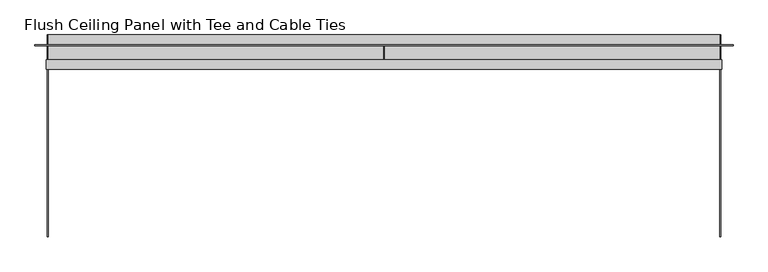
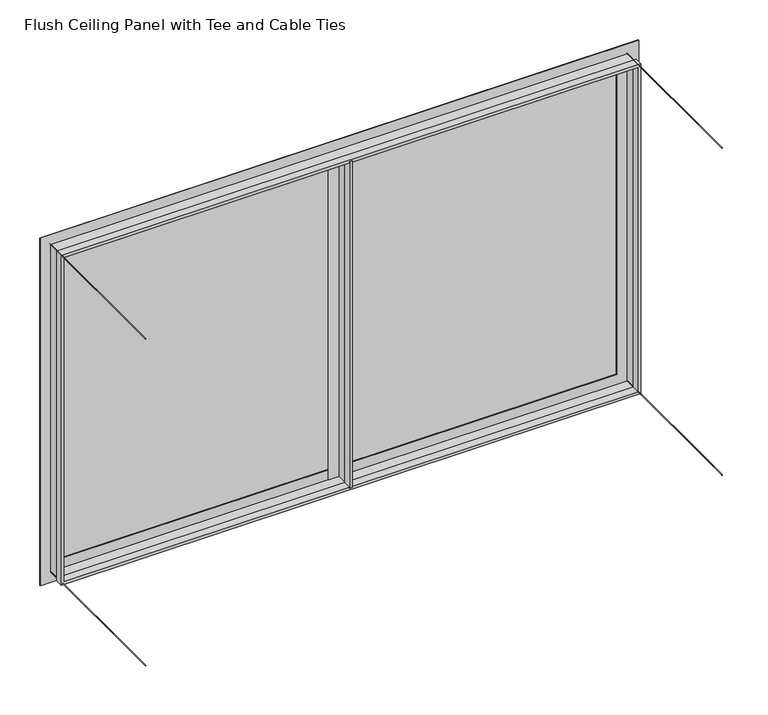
"""IFC4 building model written with IfcOpenShell, lengths in millimetres: plate geometry, Flush Ceiling Panel with Tee and Cable Ties : Ceiling Panel (Vinyl) with Tee and Cable Ties Edge."""

from ifc_helpers import new_model, si_unit, point, frame, frame_2d, origin, origin_with_axes, place, context, project, spatial, polyline, circle_curve, trimmed, segment, composite_curve, outline, extrude, faceted_brep, source, transform, mapped, element, save


def flush_ceiling_panel_with_tee_and_cable_ties_458a10b8(model_context):
    return source(origin(), model_context, "Body", "SolidModel", [
        extrude(outline(composite_curve([segment(trimmed(circle_curve(frame_2d((600.0, 500.0000002)), 0.5), [point((600.0, 500.5000002))], [point((600.0, 499.5000002))], False, "CARTESIAN"), True, "CONTINUOUS"), segment(trimmed(circle_curve(frame_2d((600.0, 500.0000002)), 0.5), [point((600.0, 499.5000002))], [point((600.0, 500.5000002))], False, "CARTESIAN"), True, "CONTINUOUS")], self_intersect=False)), frame((0.0, -300.0, 0.0), z_axis=(0.0, 1.0, 0.0), x_axis=(0.0, 0.0, 1.0)), (0.0, 0.0, 1.0), 300.0),
        extrude(outline(composite_curve([segment(trimmed(circle_curve(frame_2d((600.0, -500.0000002)), 0.5), [point((600.0, -499.5000002))], [point((600.0, -500.5000002))], False, "CARTESIAN"), True, "CONTINUOUS"), segment(trimmed(circle_curve(frame_2d((600.0, -500.0000002)), 0.5), [point((600.0, -500.5000002))], [point((600.0, -499.5000002))], False, "CARTESIAN"), True, "CONTINUOUS")], self_intersect=False)), frame((0.0, -300.0, 0.0), z_axis=(0.0, 1.0, 0.0), x_axis=(0.0, 0.0, 1.0)), (0.0, 0.0, 1.0), 300.0),
        extrude(outline(composite_curve([segment(trimmed(circle_curve(frame_2d((0.0, 500.0000002)), 0.5), [point((0.0, 500.5000002))], [point((0.0, 499.5000002))], False, "CARTESIAN"), True, "CONTINUOUS"), segment(trimmed(circle_curve(frame_2d((0.0, 500.0000002)), 0.5), [point((0.0, 499.5000002))], [point((0.0, 500.5000002))], False, "CARTESIAN"), True, "CONTINUOUS")], self_intersect=False)), frame((0.0, -300.0, 0.0), z_axis=(0.0, 1.0, 0.0), x_axis=(0.0, 0.0, 1.0)), (0.0, 0.0, 1.0), 300.0),
        extrude(outline(composite_curve([segment(trimmed(circle_curve(frame_2d((0.0, -500.0000002)), 0.5), [point((0.0, -499.5000002))], [point((0.0, -500.5000002))], False, "CARTESIAN"), True, "CONTINUOUS"), segment(trimmed(circle_curve(frame_2d((0.0, -500.0000002)), 0.5), [point((0.0, -500.5000002))], [point((0.0, -499.5000002))], False, "CARTESIAN"), True, "CONTINUOUS")], self_intersect=False)), frame((0.0, -300.0, 0.0), z_axis=(0.0, 1.0, 0.0), x_axis=(0.0, 0.0, 1.0)), (0.0, 0.0, 1.0), 300.0),
        extrude(outline(polyline([(19.0, -15.0), (19.0, -16.0), (0.5, -16.0), (0.5, -37.0), (2.5, -37.0), (2.5, -51.0), (-2.5, -51.0), (-2.5, -37.0), (-0.5, -37.0), (-0.5, -16.0), (-19.0, -16.0), (-19.0, -15.0), (19.0, -15.0)])), origin_with_axes(), (0.0, 0.0, 1.0), 600.0),
        faceted_brep([(499.5000002, -37.0, 599.5), (499.5000002, -16.0, 599.5), (499.5000002, -16.0, 0.5), (499.5000002, -37.0, 0.5), (497.5000002, -51.0, 597.5), (497.5000002, -37.0, 597.5), (497.5000002, -37.0, 2.5), (497.5000002, -51.0, 2.5), (502.5000002, -37.0, 602.5), (502.5000002, -51.0, 602.5), (502.5000002, -51.0, -2.5), (502.5000002, -37.0, -2.5), (500.5000002, -16.0, 600.5), (500.5000002, -37.0, 600.5), (500.5000002, -37.0, -0.5), (500.5000002, -16.0, -0.5), (519.0000002, -15.0, 619.0), (519.0000002, -16.0, 619.0), (519.0000002, -16.0, -19.0), (519.0000002, -15.0, -19.0), (-499.5000002, -16.0, 0.5), (-499.5000002, -37.0, 0.5), (-497.5000002, -37.0, 2.5), (-497.5000002, -51.0, 2.5), (-502.5000002, -51.0, -2.5), (-502.5000002, -37.0, -2.5), (-500.5000002, -37.0, -0.5), (-500.5000002, -16.0, -0.5), (-519.0000002, -16.0, -19.0), (-519.0000002, -15.0, -19.0), (-499.5000002, -16.0, 599.5), (-499.5000002, -37.0, 599.5), (-497.5000002, -37.0, 597.5), (-497.5000002, -51.0, 597.5), (-502.5000002, -51.0, 602.5), (-502.5000002, -37.0, 602.5), (-500.5000002, -37.0, 600.5), (-500.5000002, -16.0, 600.5), (-519.0000002, -16.0, 619.0), (-519.0000002, -15.0, 619.0), (481.0000002, -15.0, 581.0), (-481.0000002, -15.0, 581.0), (-481.0000002, -15.0, 19.0), (481.0000002, -15.0, 19.0), (481.0000002, -16.0, 581.0), (481.0000002, -16.0, 19.0), (-481.0000002, -16.0, 19.0), (-481.0000002, -16.0, 581.0)], [[[0, 1, 2, 3]], [[4, 5, 6, 7]], [[8, 9, 10, 11]], [[12, 13, 14, 15]], [[16, 17, 18, 19]], [[3, 2, 20, 21]], [[7, 6, 22, 23]], [[11, 10, 24, 25]], [[15, 14, 26, 27]], [[19, 18, 28, 29]], [[21, 20, 30, 31]], [[23, 22, 32, 33]], [[25, 24, 34, 35]], [[27, 26, 36, 37]], [[29, 28, 38, 39]], [[19, 29, 39, 16], [40, 41, 42, 43]], [[31, 30, 1, 0]], [[3, 21, 31, 0], [5, 32, 22, 6]], [[33, 32, 5, 4]], [[9, 34, 24, 10], [7, 23, 33, 4]], [[35, 34, 9, 8]], [[11, 25, 35, 8], [13, 36, 26, 14]], [[37, 36, 13, 12]], [[17, 38, 28, 18], [15, 27, 37, 12]], [[39, 38, 17, 16]], [[44, 40, 43, 45]], [[45, 43, 42, 46]], [[46, 42, 41, 47]], [[47, 41, 40, 44]], [[1, 30, 20, 2], [45, 46, 47, 44]]]),
        extrude(outline(polyline([(500.0000002, -15.0), (-500.0000002, -15.0), (-500.0000002, 0.0), (500.0000002, 0.0), (500.0000002, -15.0)])), origin_with_axes(), (0.0, 0.0, 1.0), 600.0),
    ])


if __name__ == "__main__":
    model = new_model("IFC4")
    model_context = context("Model", 3, world=origin())
    ifc_project = project(units=[si_unit("LENGTHUNIT", "METRE", prefix="MILLI")], contexts=[model_context])
    site = spatial("IfcSite", under=ifc_project)
    building = spatial("IfcBuilding", under=site)
    placement = place(None, origin())
    flush_ceiling_panel_with_tee_and_cable_ties_shape = flush_ceiling_panel_with_tee_and_cable_ties_458a10b8(model_context)
    element("IfcPlate", 1, ObjectType="Flush Ceiling Panel with Tee and Cable Ties : Ceiling Panel (Vinyl) with Tee and Cable Ties Edge", at=placement, inside=building, context=model_context, shape_type="MappedRepresentation", body=[
        mapped(flush_ceiling_panel_with_tee_and_cable_ties_shape, transform((0.0, 0.0, 0.0), x_axis=(1.0, 0.0, 0.0), y_axis=(0.0, 1.0, 0.0), z_axis=(0.0, 0.0, 1.0))),
    ])
    save(model, "model.ifc")
